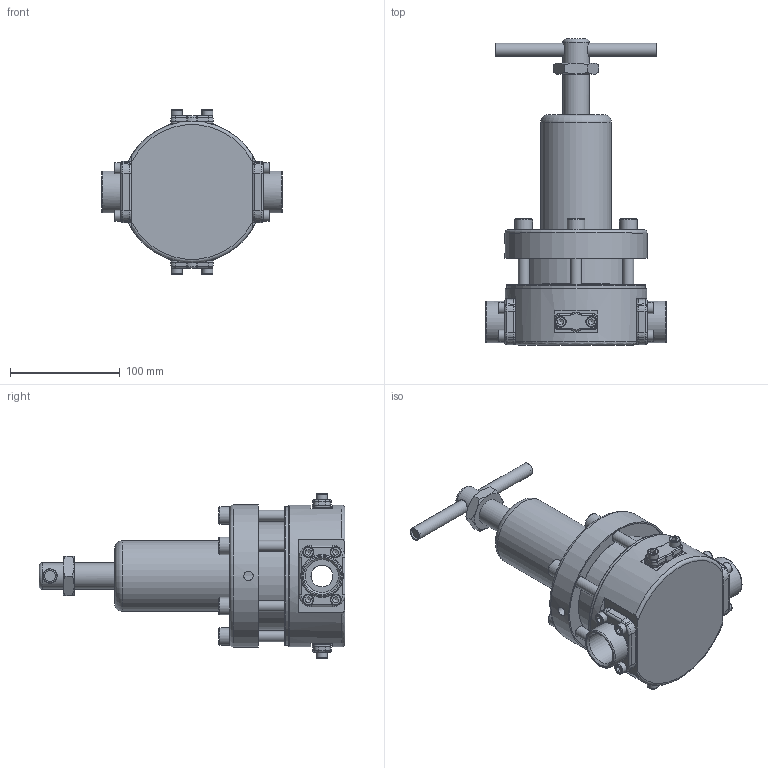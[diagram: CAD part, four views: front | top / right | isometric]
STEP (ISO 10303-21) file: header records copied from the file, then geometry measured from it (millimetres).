
FILE_DESCRIPTION(/* description */ ('Valvola di sfioro 3VSS2'),/* implementation_level */ '2;1');
FILE_NAME(/* name */ 'B-D3000-08FT-GT_01.step',/* time_stamp */ '2025-12-01T08:56:56+01:00',/* author */ (''),/* organization */ (''),/* preprocessor_version */ 'ST-DEVELOPER v20.1',/* originating_system */ 'Autodesk Translation Framework v14.21.0.0',/* authorisation */ '');
FILE_SCHEMA (('AUTOMOTIVE_DESIGN { 1 0 10303 214 3 1 1 }'));
Length unit declared in the file: millimetre
Products named in the file (16): C85024; P20702; P37098; P31004; C43013; P43064; 0DE07B; P30012; 0DN111; P26108; OR 07075; P37131; 0DC10410; OR 07021; 0DC10620; P37083
Assembly tree (35 placements, depth 3):
  C85024
    P20702
    OR 07075  x2
    0DC10410  x12
    P37131  x2
    OR 07021  x2
    P37098
    0DC10620  x6
    P31004
    C43013
      P43064
      0DE07B
      P30012
      0DN111
    P26108
    P37083  x2
Bounding box: 165 x 279 x 150.6 mm (x, y, z)
Volume: 661945.4 mm3; surface area: 239475.1 mm2
Topology: 34 solids, 34 shells, 713 faces, 1741 edges, 1105 vertices
Faces by surface type: plane 250, cylinder 165, torus 124, cone 119, bspline 54, sphere 1
Full cylindrical faces by diameter (mm): 4.917 x12, 5 x2, 6 x12, 6.5 x12, 7.7 x2, 8.376 x6, 8.566 x1, 10 x20, 10.5 x6, 11.2 x2, 12 x1, 12.2 x1, 16 x6, 20 x2, 21.835 x1, 22 x1, 24 x1, 30.291 x2, 34.6 x2, 38 x2, 38.5 x2, 60 x1, 62.376 x1, 64 x1, 64.5 x2, 98 x3, 99 x1, 126.5 x1, 127 x1, 129 x1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
Entity records: 12975 total; most frequent: CARTESIAN_POINT 4367, DIRECTION 1842, ORIENTED_EDGE 1598, AXIS2_PLACEMENT_3D 801, EDGE_CURVE 799, VERTEX_POINT 511, CIRCLE 414, EDGE_LOOP 406
